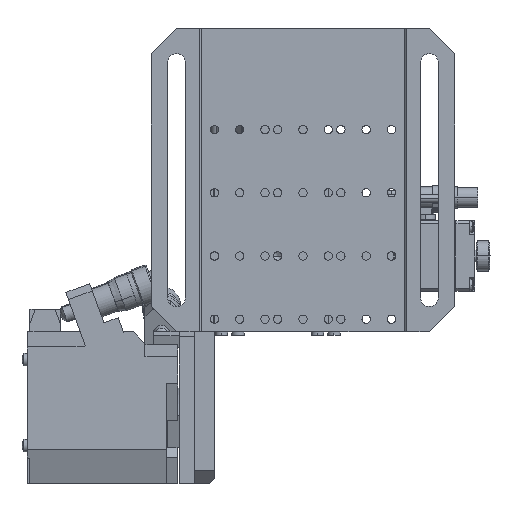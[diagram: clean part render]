
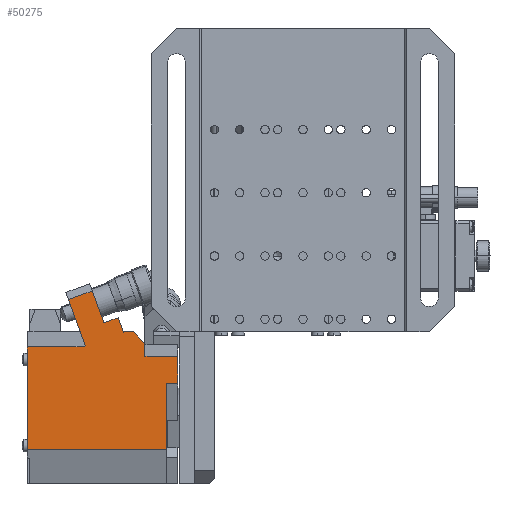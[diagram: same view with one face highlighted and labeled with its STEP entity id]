
A CAD part, front view. The second image highlights one B-rep face of the part: STEP entity #50275.
In plain terms, the highlighted planar face has unit normal (0, -1, 0).
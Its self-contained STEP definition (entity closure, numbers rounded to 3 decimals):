
#1196 = CARTESIAN_POINT ( 'NONE',  ( 65.031, 5.5, 46.971 ) ) ;
#1242 = VECTOR ( 'NONE', #22936, 1000. ) ;
#1711 = VECTOR ( 'NONE', #33977, 1000. ) ;
#2084 = LINE ( 'NONE', #64463, #15140 ) ;
#2177 = VERTEX_POINT ( 'NONE', #63090 ) ;
#2995 = LINE ( 'NONE', #50697, #1242 ) ;
#3279 = FACE_OUTER_BOUND ( 'NONE', #70115, .T. ) ;
#3455 = CARTESIAN_POINT ( 'NONE',  ( 50.286, 5.5, 6.5 ) ) ;
#3558 = LINE ( 'NONE', #1196, #66220 ) ;
#4273 = VECTOR ( 'NONE', #23462, 1000. ) ;
#4569 = VERTEX_POINT ( 'NONE', #57743 ) ;
#4650 = LINE ( 'NONE', #50612, #17741 ) ;
#4655 = CARTESIAN_POINT ( 'NONE',  ( 50.286, 5.5, -204.864 ) ) ;
#4852 = ORIENTED_EDGE ( 'NONE', *, *, #43397, .F. ) ;
#4857 = DIRECTION ( 'NONE',  ( 0.94, 0., 0.342 ) ) ;
#5159 = DIRECTION ( 'NONE',  ( -0.94, 0., -0.342 ) ) ;
#5296 = CARTESIAN_POINT ( 'NONE',  ( 63.518, 5.5, 35.778 ) ) ;
#6267 = CARTESIAN_POINT ( 'NONE',  ( 75.519, 5.5, 42.275 ) ) ;
#8048 = CARTESIAN_POINT ( 'NONE',  ( 13.549, 5.5, -204.864 ) ) ;
#8104 = ORIENTED_EDGE ( 'NONE', *, *, #39669, .F. ) ;
#8605 = DIRECTION ( 'NONE',  ( -1., 0., 0. ) ) ;
#8934 = EDGE_CURVE ( 'NONE', #43557, #24020, #30440, .T. ) ;
#9182 = VECTOR ( 'NONE', #58898, 1000. ) ;
#10482 = DIRECTION ( 'NONE',  ( 0., 0., 1. ) ) ;
#12649 = EDGE_CURVE ( 'NONE', #46852, #45337, #2995, .T. ) ;
#12904 = EDGE_CURVE ( 'NONE', #54547, #22653, #2084, .T. ) ;
#13077 = VERTEX_POINT ( 'NONE', #5296 ) ;
#13143 = EDGE_CURVE ( 'NONE', #69599, #54547, #4650, .T. ) ;
#13932 = LINE ( 'NONE', #23357, #69534 ) ;
#14080 = DIRECTION ( 'NONE',  ( -1., 0., 0. ) ) ;
#14465 = EDGE_CURVE ( 'NONE', #54415, #69599, #54183, .T. ) ;
#14561 = VERTEX_POINT ( 'NONE', #54582 ) ;
#14765 = EDGE_CURVE ( 'NONE', #46852, #51971, #3558, .T. ) ;
#15140 = VECTOR ( 'NONE', #59176, 1000. ) ;
#17548 = LINE ( 'NONE', #4655, #60248 ) ;
#17741 = VECTOR ( 'NONE', #44970, 1000. ) ;
#17758 = DIRECTION ( 'NONE',  ( 0.707, 0., 0.707 ) ) ;
#17843 = CARTESIAN_POINT ( 'NONE',  ( 51.879, 5.5, 50.213 ) ) ;
#18066 = CARTESIAN_POINT ( 'NONE',  ( 54., 5.5, 42.25 ) ) ;
#19284 = DIRECTION ( 'NONE',  ( 0., -1., 0. ) ) ;
#19896 = EDGE_CURVE ( 'NONE', #2177, #54932, #53152, .T. ) ;
#22176 = ORIENTED_EDGE ( 'NONE', *, *, #8934, .T. ) ;
#22653 = VERTEX_POINT ( 'NONE', #51696 ) ;
#22936 = DIRECTION ( 'NONE',  ( -0.342, 0., 0.94 ) ) ;
#23357 = CARTESIAN_POINT ( 'NONE',  ( 60., 5.5, 42.25 ) ) ;
#23370 = CARTESIAN_POINT ( 'NONE',  ( 39.644, 5.5, 6.5 ) ) ;
#23381 = CARTESIAN_POINT ( 'NONE',  ( 54.125, 5.5, 18.125 ) ) ;
#23462 = DIRECTION ( 'NONE',  ( -0.342, 0., 0.94 ) ) ;
#24020 = VERTEX_POINT ( 'NONE', #36328 ) ;
#24917 = VERTEX_POINT ( 'NONE', #42629 ) ;
#25692 = ORIENTED_EDGE ( 'NONE', *, *, #44093, .F. ) ;
#25956 = CARTESIAN_POINT ( 'NONE',  ( 54., 5.5, 44.385 ) ) ;
#27572 = CARTESIAN_POINT ( 'NONE',  ( 70.503, 5.5, 31.936 ) ) ;
#27618 = ORIENTED_EDGE ( 'NONE', *, *, #70841, .T. ) ;
#29238 = CARTESIAN_POINT ( 'NONE',  ( 50.286, 5.5, 19.5 ) ) ;
#29645 = VECTOR ( 'NONE', #4857, 1000. ) ;
#29649 = ORIENTED_EDGE ( 'NONE', *, *, #46027, .T. ) ;
#29840 = CARTESIAN_POINT ( 'NONE',  ( 33.097, 5.5, 6.5 ) ) ;
#30440 = LINE ( 'NONE', #17843, #4273 ) ;
#31534 = VECTOR ( 'NONE', #8605, 1000. ) ;
#32243 = CARTESIAN_POINT ( 'NONE',  ( 39.644, 5.5, 11. ) ) ;
#32607 = ORIENTED_EDGE ( 'NONE', *, *, #14765, .F. ) ;
#33977 = DIRECTION ( 'NONE',  ( -0.342, 0., 0.94 ) ) ;
#34671 = ORIENTED_EDGE ( 'NONE', *, *, #69117, .T. ) ;
#35370 = DIRECTION ( 'NONE',  ( -1., 0., 0. ) ) ;
#36099 = VECTOR ( 'NONE', #5159, 1000. ) ;
#36328 = CARTESIAN_POINT ( 'NONE',  ( 59.932, 5.5, 28.088 ) ) ;
#38294 = CARTESIAN_POINT ( 'NONE',  ( 60., 5.5, 27.9 ) ) ;
#39226 = VECTOR ( 'NONE', #14080, 1000. ) ;
#39669 = EDGE_CURVE ( 'NONE', #2177, #63861, #61210, .T. ) ;
#39734 = VECTOR ( 'NONE', #62601, 1000. ) ;
#40107 = DIRECTION ( 'NONE',  ( 0.94, 0., 0.342 ) ) ;
#41965 = CARTESIAN_POINT ( 'NONE',  ( 30., 5.5, 19.5 ) ) ;
#42629 = CARTESIAN_POINT ( 'NONE',  ( 65.57, 5.5, 30.14 ) ) ;
#42709 = ORIENTED_EDGE ( 'NONE', *, *, #19896, .T. ) ;
#42800 = VECTOR ( 'NONE', #35370, 1000. ) ;
#43397 = EDGE_CURVE ( 'NONE', #22653, #4569, #66615, .T. ) ;
#43557 = VERTEX_POINT ( 'NONE', #38294 ) ;
#44093 = EDGE_CURVE ( 'NONE', #24917, #24020, #63984, .T. ) ;
#44361 = LINE ( 'NONE', #6267, #1711 ) ;
#44375 = LINE ( 'NONE', #71204, #29645 ) ;
#44970 = DIRECTION ( 'NONE',  ( 0., 0., 1. ) ) ;
#45337 = VERTEX_POINT ( 'NONE', #25956 ) ;
#45942 = CARTESIAN_POINT ( 'NONE',  ( 72.783, 5.5, 49.792 ) ) ;
#46027 = EDGE_CURVE ( 'NONE', #54415, #63861, #17548, .T. ) ;
#46852 = VERTEX_POINT ( 'NONE', #51347 ) ;
#47433 = CARTESIAN_POINT ( 'NONE',  ( 32., 5.5, 66. ) ) ;
#48797 = EDGE_CURVE ( 'NONE', #13077, #14561, #44375, .T. ) ;
#49605 = VECTOR ( 'NONE', #17758, 1000. ) ;
#50275 = ADVANCED_FACE ( 'NONE', ( #3279 ), #52661, .T. ) ;
#50612 = CARTESIAN_POINT ( 'NONE',  ( 39.644, 5.5, 2. ) ) ;
#50636 = LINE ( 'NONE', #47433, #39226 ) ;
#50697 = CARTESIAN_POINT ( 'NONE',  ( 51.879, 5.5, 50.213 ) ) ;
#51347 = CARTESIAN_POINT ( 'NONE',  ( 54.459, 5.5, 43.123 ) ) ;
#51696 = CARTESIAN_POINT ( 'NONE',  ( 13.549, 5.5, 11. ) ) ;
#51971 = VERTEX_POINT ( 'NONE', #45942 ) ;
#52661 = PLANE ( 'NONE',  #59314 ) ;
#53152 = LINE ( 'NONE', #23381, #49605 ) ;
#54183 = LINE ( 'NONE', #29840, #42800 ) ;
#54192 = CARTESIAN_POINT ( 'NONE',  ( 54., 5.5, 66. ) ) ;
#54255 = CARTESIAN_POINT ( 'NONE',  ( 62.834, 5.5, 37.658 ) ) ;
#54415 = VERTEX_POINT ( 'NONE', #3455 ) ;
#54547 = VERTEX_POINT ( 'NONE', #32243 ) ;
#54582 = CARTESIAN_POINT ( 'NONE',  ( 76.203, 5.5, 40.395 ) ) ;
#54932 = VERTEX_POINT ( 'NONE', #64344 ) ;
#56661 = ORIENTED_EDGE ( 'NONE', *, *, #14465, .F. ) ;
#57743 = CARTESIAN_POINT ( 'NONE',  ( 13.549, 5.5, 66. ) ) ;
#58173 = LINE ( 'NONE', #54255, #61601 ) ;
#58270 = DIRECTION ( 'NONE',  ( -1., 0., 0. ) ) ;
#58898 = DIRECTION ( 'NONE',  ( 0., 0., 1. ) ) ;
#59085 = ORIENTED_EDGE ( 'NONE', *, *, #13143, .F. ) ;
#59176 = DIRECTION ( 'NONE',  ( -1., 0., 0. ) ) ;
#59177 = ORIENTED_EDGE ( 'NONE', *, *, #64898, .F. ) ;
#59314 = AXIS2_PLACEMENT_3D ( 'NONE', #8048, #19284, #58270 ) ;
#59468 = EDGE_CURVE ( 'NONE', #65718, #4569, #50636, .T. ) ;
#59848 = DIRECTION ( 'NONE',  ( -0.342, 0., 0.94 ) ) ;
#59862 = LINE ( 'NONE', #18066, #39734 ) ;
#60248 = VECTOR ( 'NONE', #10482, 1000. ) ;
#61210 = LINE ( 'NONE', #41965, #31534 ) ;
#61601 = VECTOR ( 'NONE', #59848, 1000. ) ;
#62601 = DIRECTION ( 'NONE',  ( 0., 0., 1. ) ) ;
#62681 = ORIENTED_EDGE ( 'NONE', *, *, #59468, .T. ) ;
#63090 = CARTESIAN_POINT ( 'NONE',  ( 55.5, 5.5, 19.5 ) ) ;
#63596 = ORIENTED_EDGE ( 'NONE', *, *, #48797, .T. ) ;
#63861 = VERTEX_POINT ( 'NONE', #29238 ) ;
#63984 = LINE ( 'NONE', #27572, #36099 ) ;
#64210 = CARTESIAN_POINT ( 'NONE',  ( 13.549, 5.5, 6.5 ) ) ;
#64344 = CARTESIAN_POINT ( 'NONE',  ( 60., 5.5, 24. ) ) ;
#64463 = CARTESIAN_POINT ( 'NONE',  ( 54.034, 5.5, 11. ) ) ;
#64511 = ORIENTED_EDGE ( 'NONE', *, *, #12649, .T. ) ;
#64898 = EDGE_CURVE ( 'NONE', #43557, #54932, #13932, .T. ) ;
#65718 = VERTEX_POINT ( 'NONE', #54192 ) ;
#66220 = VECTOR ( 'NONE', #40107, 1000. ) ;
#66615 = LINE ( 'NONE', #64210, #9182 ) ;
#67779 = DIRECTION ( 'NONE',  ( 0., 0., -1. ) ) ;
#68002 = ORIENTED_EDGE ( 'NONE', *, *, #12904, .F. ) ;
#69117 = EDGE_CURVE ( 'NONE', #14561, #51971, #44361, .T. ) ;
#69534 = VECTOR ( 'NONE', #67779, 1000. ) ;
#69599 = VERTEX_POINT ( 'NONE', #23370 ) ;
#69868 = ORIENTED_EDGE ( 'NONE', *, *, #71486, .T. ) ;
#70115 = EDGE_LOOP ( 'NONE', ( #62681, #4852, #68002, #59085, #56661, #29649, #8104, #42709, #59177, #22176, #25692, #69868, #63596, #34671, #32607, #64511, #27618 ) ) ;
#70841 = EDGE_CURVE ( 'NONE', #45337, #65718, #59862, .T. ) ;
#71204 = CARTESIAN_POINT ( 'NONE',  ( 68.451, 5.5, 37.574 ) ) ;
#71486 = EDGE_CURVE ( 'NONE', #24917, #13077, #58173, .T. ) ;
